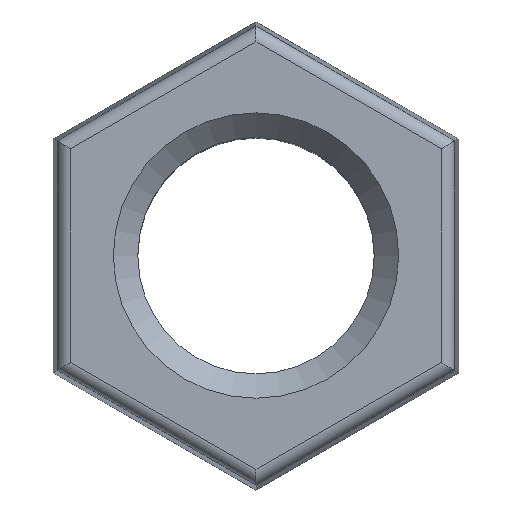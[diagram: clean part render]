
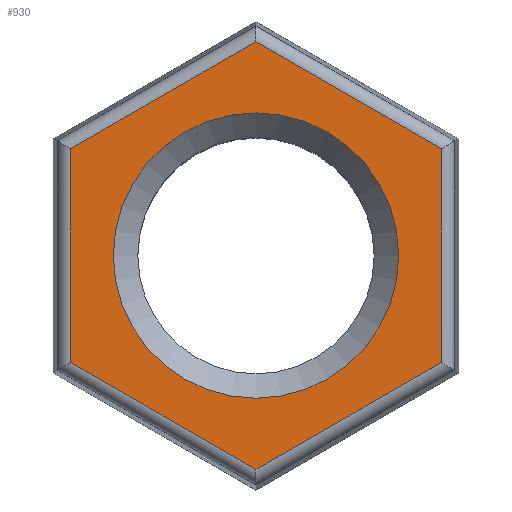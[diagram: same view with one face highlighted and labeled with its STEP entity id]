
A CAD part, top view. The second image highlights one B-rep face of the part: STEP entity #930.
In plain terms, the highlighted free-form (B-spline) face has degree [1, 1] with [2, 2] control points.
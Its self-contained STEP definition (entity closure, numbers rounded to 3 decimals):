
#840=CARTESIAN_POINT('',(-10.5,0.,36.0));
#841=VERTEX_POINT('',#840);
#842=CARTESIAN_POINT('',(0.,0.,36.0));
#843=DIRECTION('',(0.0,0.0,1.0));
#844=DIRECTION('',(1.0,0.0,0.0));
#845=AXIS2_PLACEMENT_3D('',#842,#843,#844);
#846=CIRCLE('',#845,10.5);
#847=EDGE_CURVE('',#841,#841,#846,.T.);
#872=CARTESIAN_POINT('',(-13.617,15.724,36.0));
#873=CARTESIAN_POINT('',(13.617,15.724,36.0));
#874=CARTESIAN_POINT('',(-13.617,-15.724,36.0));
#875=CARTESIAN_POINT('',(13.617,-15.724,36.0));
#876=B_SPLINE_SURFACE_WITH_KNOTS('',1,1,((#872,#874),(#873,#875)),.UNSPECIFIED.,.F.,.F.,.U.,(2,2),(2,2),(0.0,27.235),(0.0,31.448),.UNSPECIFIED.);
#877=CARTESIAN_POINT('',(13.617,-7.862,36.0));
#878=VERTEX_POINT('',#877);
#879=CARTESIAN_POINT('',(0.,-15.724,36.0));
#880=VERTEX_POINT('',#879);
#881=CARTESIAN_POINT('',(13.617,-7.862,36.0));
#882=DIRECTION('',(-0.866,-0.5,0.0));
#883=VECTOR('',#882,15.724);
#884=LINE('',#881,#883);
#885=EDGE_CURVE('',#878,#880,#884,.T.);
#886=ORIENTED_EDGE('',*,*,#885,.F.);
#887=CARTESIAN_POINT('',(13.617,7.862,36.0));
#888=VERTEX_POINT('',#887);
#889=CARTESIAN_POINT('',(13.617,7.862,36.0));
#890=DIRECTION('',(0.0,-1.0,0.0));
#891=VECTOR('',#890,15.724);
#892=LINE('',#889,#891);
#893=EDGE_CURVE('',#888,#878,#892,.T.);
#894=ORIENTED_EDGE('',*,*,#893,.F.);
#895=CARTESIAN_POINT('',(0.,15.724,36.0));
#896=VERTEX_POINT('',#895);
#897=CARTESIAN_POINT('',(0.,15.724,36.0));
#898=DIRECTION('',(0.866,-0.5,0.0));
#899=VECTOR('',#898,15.724);
#900=LINE('',#897,#899);
#901=EDGE_CURVE('',#896,#888,#900,.T.);
#902=ORIENTED_EDGE('',*,*,#901,.F.);
#903=CARTESIAN_POINT('',(-13.617,7.862,36.0));
#904=VERTEX_POINT('',#903);
#905=CARTESIAN_POINT('',(-13.617,7.862,36.0));
#906=DIRECTION('',(0.866,0.5,0.0));
#907=VECTOR('',#906,15.724);
#908=LINE('',#905,#907);
#909=EDGE_CURVE('',#904,#896,#908,.T.);
#910=ORIENTED_EDGE('',*,*,#909,.F.);
#911=CARTESIAN_POINT('',(-13.617,-7.862,36.0));
#912=VERTEX_POINT('',#911);
#913=CARTESIAN_POINT('',(-13.617,-7.862,36.0));
#914=DIRECTION('',(0.0,1.0,0.0));
#915=VECTOR('',#914,15.724);
#916=LINE('',#913,#915);
#917=EDGE_CURVE('',#912,#904,#916,.T.);
#918=ORIENTED_EDGE('',*,*,#917,.F.);
#919=CARTESIAN_POINT('',(0.,-15.724,36.0));
#920=DIRECTION('',(-0.866,0.5,0.0));
#921=VECTOR('',#920,15.724);
#922=LINE('',#919,#921);
#923=EDGE_CURVE('',#880,#912,#922,.T.);
#924=ORIENTED_EDGE('',*,*,#923,.F.);
#925=EDGE_LOOP('',(#886,#894,#902,#910,#918,#924));
#926=FACE_OUTER_BOUND('',#925,.T.);
#927=ORIENTED_EDGE('',*,*,#847,.F.);
#928=EDGE_LOOP('',(#927));
#929=FACE_BOUND('',#928,.T.);
#930=ADVANCED_FACE('',(#926,#929),#876,.F.);
